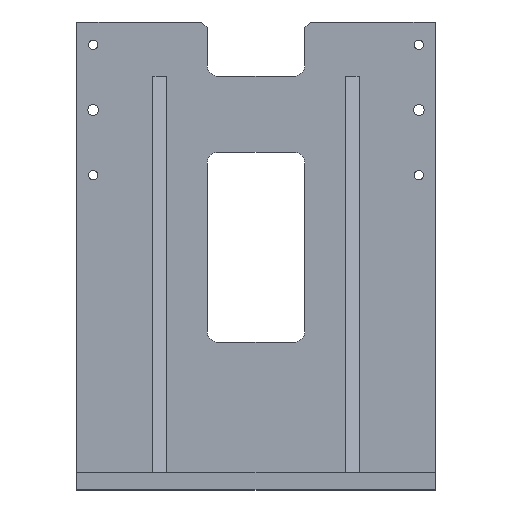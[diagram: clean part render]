
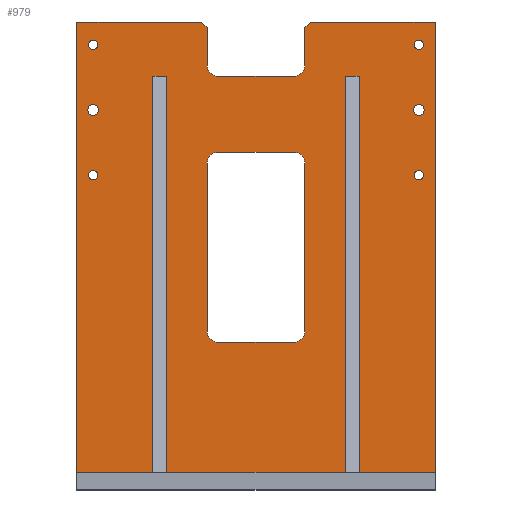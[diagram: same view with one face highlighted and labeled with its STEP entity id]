
A CAD part, top view. The second image highlights one B-rep face of the part: STEP entity #979.
In plain terms, the highlighted planar face has unit normal (0, 0, 1).
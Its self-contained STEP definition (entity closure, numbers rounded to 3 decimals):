
#19=FACE_BOUND($,#149,.T.);
#20=FACE_BOUND($,#150,.T.);
#21=FACE_BOUND($,#151,.T.);
#22=FACE_BOUND($,#152,.T.);
#23=FACE_BOUND($,#153,.T.);
#24=FACE_BOUND($,#154,.T.);
#25=FACE_BOUND($,#155,.T.);
#26=FACE_BOUND($,#156,.T.);
#65=PLANE($,#1047);
#149=EDGE_LOOP($,(#739,#740,#741,#742,#743,#744,#745,#746));
#150=EDGE_LOOP($,(#747,#748,#749,#750,#751,#752,#753,#754,#755,#756,#757,
#758,#759,#760,#761,#762,#763,#764,#765,#766));
#151=EDGE_LOOP($,(#767));
#152=EDGE_LOOP($,(#768));
#153=EDGE_LOOP($,(#769));
#154=EDGE_LOOP($,(#770));
#155=EDGE_LOOP($,(#771));
#156=EDGE_LOOP($,(#772));
#215=LINE($,#1371,#305);
#218=LINE($,#1382,#308);
#223=LINE($,#1395,#313);
#225=LINE($,#1403,#315);
#244=LINE($,#1458,#334);
#248=LINE($,#1464,#338);
#250=LINE($,#1469,#340);
#252=LINE($,#1473,#342);
#256=LINE($,#1484,#346);
#257=LINE($,#1487,#347);
#258=LINE($,#1489,#348);
#259=LINE($,#1491,#349);
#260=LINE($,#1493,#350);
#261=LINE($,#1495,#351);
#262=LINE($,#1497,#352);
#263=LINE($,#1499,#353);
#264=LINE($,#1501,#354);
#265=LINE($,#1503,#355);
#266=LINE($,#1505,#356);
#267=LINE($,#1507,#357);
#268=LINE($,#1509,#358);
#269=LINE($,#1510,#359);
#305=VECTOR($,#1110,155.);
#308=VECTOR($,#1121,70.);
#313=VECTOR($,#1134,70.);
#315=VECTOR($,#1144,155.);
#334=VECTOR($,#1187,7.071);
#338=VECTOR($,#1193,35.);
#340=VECTOR($,#1197,7.071);
#342=VECTOR($,#1201,35.);
#346=VECTOR($,#1215,70.);
#347=VECTOR($,#1218,115.);
#348=VECTOR($,#1219,415.);
#349=VECTOR($,#1220,70.);
#350=VECTOR($,#1221,365.);
#351=VECTOR($,#1222,12.7);
#352=VECTOR($,#1223,365.);
#353=VECTOR($,#1224,164.6);
#354=VECTOR($,#1225,365.);
#355=VECTOR($,#1226,12.7);
#356=VECTOR($,#1227,365.);
#357=VECTOR($,#1228,70.);
#358=VECTOR($,#1229,415.);
#359=VECTOR($,#1230,115.);
#390=CIRCLE($,#1013,10.);
#392=CIRCLE($,#1017,10.);
#394=CIRCLE($,#1021,10.);
#396=CIRCLE($,#1025,10.);
#405=CIRCLE($,#1043,10.);
#406=CIRCLE($,#1045,10.);
#407=CIRCLE($,#1048,5.);
#408=CIRCLE($,#1049,5.);
#409=CIRCLE($,#1050,4.188);
#410=CIRCLE($,#1051,4.188);
#411=CIRCLE($,#1052,4.188);
#412=CIRCLE($,#1053,4.188);
#427=VERTEX_POINT($,#1357);
#428=VERTEX_POINT($,#1359);
#432=VERTEX_POINT($,#1369);
#435=VERTEX_POINT($,#1376);
#436=VERTEX_POINT($,#1378);
#438=VERTEX_POINT($,#1387);
#440=VERTEX_POINT($,#1393);
#442=VERTEX_POINT($,#1399);
#465=VERTEX_POINT($,#1456);
#466=VERTEX_POINT($,#1457);
#467=VERTEX_POINT($,#1462);
#468=VERTEX_POINT($,#1466);
#469=VERTEX_POINT($,#1468);
#470=VERTEX_POINT($,#1472);
#471=VERTEX_POINT($,#1476);
#472=VERTEX_POINT($,#1480);
#473=VERTEX_POINT($,#1486);
#474=VERTEX_POINT($,#1488);
#475=VERTEX_POINT($,#1490);
#476=VERTEX_POINT($,#1492);
#477=VERTEX_POINT($,#1494);
#478=VERTEX_POINT($,#1496);
#479=VERTEX_POINT($,#1498);
#480=VERTEX_POINT($,#1500);
#481=VERTEX_POINT($,#1502);
#482=VERTEX_POINT($,#1504);
#483=VERTEX_POINT($,#1506);
#484=VERTEX_POINT($,#1508);
#485=VERTEX_POINT($,#1511);
#486=VERTEX_POINT($,#1513);
#487=VERTEX_POINT($,#1515);
#488=VERTEX_POINT($,#1517);
#489=VERTEX_POINT($,#1519);
#490=VERTEX_POINT($,#1521);
#519=EDGE_CURVE($,#427,#428,#390,.T.);
#525=EDGE_CURVE($,#427,#432,#215,.T.);
#528=EDGE_CURVE($,#435,#436,#392,.T.);
#530=EDGE_CURVE($,#435,#428,#218,.T.);
#534=EDGE_CURVE($,#438,#432,#394,.T.);
#537=EDGE_CURVE($,#438,#440,#223,.T.);
#540=EDGE_CURVE($,#442,#440,#396,.T.);
#541=EDGE_CURVE($,#442,#436,#225,.T.);
#568=EDGE_CURVE($,#465,#466,#244,.T.);
#572=EDGE_CURVE($,#465,#467,#248,.T.);
#574=EDGE_CURVE($,#468,#469,#250,.T.);
#576=EDGE_CURVE($,#470,#469,#252,.T.);
#578=EDGE_CURVE($,#471,#467,#405,.T.);
#580=EDGE_CURVE($,#470,#472,#406,.T.);
#582=EDGE_CURVE($,#471,#472,#256,.T.);
#583=EDGE_CURVE($,#468,#473,#257,.T.);
#584=EDGE_CURVE($,#473,#474,#258,.T.);
#585=EDGE_CURVE($,#474,#475,#259,.T.);
#586=EDGE_CURVE($,#475,#476,#260,.T.);
#587=EDGE_CURVE($,#476,#477,#261,.T.);
#588=EDGE_CURVE($,#477,#478,#262,.T.);
#589=EDGE_CURVE($,#478,#479,#263,.T.);
#590=EDGE_CURVE($,#479,#480,#264,.T.);
#591=EDGE_CURVE($,#480,#481,#265,.T.);
#592=EDGE_CURVE($,#481,#482,#266,.T.);
#593=EDGE_CURVE($,#482,#483,#267,.T.);
#594=EDGE_CURVE($,#483,#484,#268,.T.);
#595=EDGE_CURVE($,#484,#466,#269,.T.);
#596=EDGE_CURVE($,#485,#485,#407,.T.);
#597=EDGE_CURVE($,#486,#486,#408,.T.);
#598=EDGE_CURVE($,#487,#487,#409,.T.);
#599=EDGE_CURVE($,#488,#488,#410,.T.);
#600=EDGE_CURVE($,#489,#489,#411,.T.);
#601=EDGE_CURVE($,#490,#490,#412,.T.);
#739=ORIENTED_EDGE($,*,*,#525,.T.);
#740=ORIENTED_EDGE($,*,*,#534,.F.);
#741=ORIENTED_EDGE($,*,*,#537,.T.);
#742=ORIENTED_EDGE($,*,*,#540,.F.);
#743=ORIENTED_EDGE($,*,*,#541,.T.);
#744=ORIENTED_EDGE($,*,*,#528,.F.);
#745=ORIENTED_EDGE($,*,*,#530,.T.);
#746=ORIENTED_EDGE($,*,*,#519,.F.);
#747=ORIENTED_EDGE($,*,*,#568,.F.);
#748=ORIENTED_EDGE($,*,*,#572,.T.);
#749=ORIENTED_EDGE($,*,*,#578,.F.);
#750=ORIENTED_EDGE($,*,*,#582,.T.);
#751=ORIENTED_EDGE($,*,*,#580,.F.);
#752=ORIENTED_EDGE($,*,*,#576,.T.);
#753=ORIENTED_EDGE($,*,*,#574,.F.);
#754=ORIENTED_EDGE($,*,*,#583,.T.);
#755=ORIENTED_EDGE($,*,*,#584,.T.);
#756=ORIENTED_EDGE($,*,*,#585,.T.);
#757=ORIENTED_EDGE($,*,*,#586,.T.);
#758=ORIENTED_EDGE($,*,*,#587,.T.);
#759=ORIENTED_EDGE($,*,*,#588,.T.);
#760=ORIENTED_EDGE($,*,*,#589,.T.);
#761=ORIENTED_EDGE($,*,*,#590,.T.);
#762=ORIENTED_EDGE($,*,*,#591,.T.);
#763=ORIENTED_EDGE($,*,*,#592,.T.);
#764=ORIENTED_EDGE($,*,*,#593,.T.);
#765=ORIENTED_EDGE($,*,*,#594,.T.);
#766=ORIENTED_EDGE($,*,*,#595,.T.);
#767=ORIENTED_EDGE($,*,*,#596,.T.);
#768=ORIENTED_EDGE($,*,*,#597,.T.);
#769=ORIENTED_EDGE($,*,*,#598,.T.);
#770=ORIENTED_EDGE($,*,*,#599,.T.);
#771=ORIENTED_EDGE($,*,*,#600,.T.);
#772=ORIENTED_EDGE($,*,*,#601,.T.);
#979=ADVANCED_FACE($,(#19,#20,#21,#22,#23,#24,#25,#26),#65,.T.);
#1013=AXIS2_PLACEMENT_3D($,#1360,#1101,#1102);
#1017=AXIS2_PLACEMENT_3D($,#1379,#1116,#1117);
#1021=AXIS2_PLACEMENT_3D($,#1389,#1128,#1129);
#1025=AXIS2_PLACEMENT_3D($,#1401,#1140,#1141);
#1043=AXIS2_PLACEMENT_3D($,#1477,#1205,#1206);
#1045=AXIS2_PLACEMENT_3D($,#1481,#1210,#1211);
#1047=AXIS2_PLACEMENT_3D($,#1485,#1216,#1217);
#1048=AXIS2_PLACEMENT_3D($,#1512,#1231,#1232);
#1049=AXIS2_PLACEMENT_3D($,#1514,#1233,#1234);
#1050=AXIS2_PLACEMENT_3D($,#1516,#1235,#1236);
#1051=AXIS2_PLACEMENT_3D($,#1518,#1237,#1238);
#1052=AXIS2_PLACEMENT_3D($,#1520,#1239,#1240);
#1053=AXIS2_PLACEMENT_3D($,#1522,#1241,#1242);
#1101=DIRECTION('center_axis',(0.,0.,1.));
#1102=DIRECTION('ref_axis',(-0.707,-0.707,0.));
#1110=DIRECTION($,(0.,1.,0.));
#1116=DIRECTION('center_axis',(0.,0.,1.));
#1117=DIRECTION('ref_axis',(0.707,-0.707,0.));
#1121=DIRECTION($,(-1.,0.,0.));
#1128=DIRECTION('center_axis',(0.,0.,1.));
#1129=DIRECTION('ref_axis',(-0.707,0.707,0.));
#1134=DIRECTION($,(1.,0.,0.));
#1140=DIRECTION('center_axis',(0.,0.,1.));
#1141=DIRECTION('ref_axis',(0.707,0.707,0.));
#1144=DIRECTION($,(0.,-1.,0.));
#1187=DIRECTION($,(0.707,0.707,0.));
#1193=DIRECTION($,(0.,-1.,0.));
#1197=DIRECTION($,(0.707,-0.707,0.));
#1201=DIRECTION($,(0.,1.,0.));
#1205=DIRECTION('center_axis',(0.,0.,1.));
#1206=DIRECTION('ref_axis',(0.707,-0.707,0.));
#1210=DIRECTION('center_axis',(0.,0.,1.));
#1211=DIRECTION('ref_axis',(-0.707,-0.707,0.));
#1215=DIRECTION($,(-1.,0.,0.));
#1216=DIRECTION('center_axis',(0.,0.,1.));
#1217=DIRECTION('ref_axis',(1.,0.,0.));
#1218=DIRECTION($,(-1.,0.,0.));
#1219=DIRECTION($,(0.,-1.,0.));
#1220=DIRECTION($,(1.,0.,0.));
#1221=DIRECTION($,(0.,1.,0.));
#1222=DIRECTION($,(1.,0.,0.));
#1223=DIRECTION($,(0.,-1.,0.));
#1224=DIRECTION($,(1.,0.,0.));
#1225=DIRECTION($,(0.,1.,0.));
#1226=DIRECTION($,(1.,0.,0.));
#1227=DIRECTION($,(0.,-1.,0.));
#1228=DIRECTION($,(1.,0.,0.));
#1229=DIRECTION($,(0.,1.,0.));
#1230=DIRECTION($,(-1.,0.,0.));
#1231=DIRECTION('center_axis',(0.,0.,-1.));
#1232=DIRECTION('ref_axis',(-1.,0.,0.));
#1233=DIRECTION('center_axis',(0.,0.,-1.));
#1234=DIRECTION('ref_axis',(-1.,0.,0.));
#1235=DIRECTION('center_axis',(0.,0.,-1.));
#1236=DIRECTION('ref_axis',(-1.,0.,0.));
#1237=DIRECTION('center_axis',(0.,0.,-1.));
#1238=DIRECTION('ref_axis',(-1.,0.,0.));
#1239=DIRECTION('center_axis',(0.,0.,-1.));
#1240=DIRECTION('ref_axis',(-1.,0.,0.));
#1241=DIRECTION('center_axis',(0.,0.,-1.));
#1242=DIRECTION('ref_axis',(-1.,0.,0.));
#1357=CARTESIAN_POINT('',(-45.,-77.5,19.05));
#1359=CARTESIAN_POINT('',(-35.,-87.5,19.05));
#1360=CARTESIAN_POINT('Origin',(-35.,-77.5,19.05));
#1369=CARTESIAN_POINT('',(-45.,77.5,19.05));
#1371=CARTESIAN_POINT($,(-45.,43.75,19.05));
#1376=CARTESIAN_POINT('',(35.,-87.5,19.05));
#1378=CARTESIAN_POINT('',(45.,-77.5,19.05));
#1379=CARTESIAN_POINT('Origin',(35.,-77.5,19.05));
#1382=CARTESIAN_POINT($,(-22.5,-87.5,19.05));
#1387=CARTESIAN_POINT('',(-35.,87.5,19.05));
#1389=CARTESIAN_POINT('Origin',(-35.,77.5,19.05));
#1393=CARTESIAN_POINT('',(35.,87.5,19.05));
#1395=CARTESIAN_POINT($,(22.5,87.5,19.05));
#1399=CARTESIAN_POINT('',(45.,77.5,19.05));
#1401=CARTESIAN_POINT('Origin',(35.,77.5,19.05));
#1403=CARTESIAN_POINT($,(45.,-43.75,19.05));
#1456=CARTESIAN_POINT('',(45.,202.5,19.05));
#1457=CARTESIAN_POINT('',(50.,207.5,19.05));
#1458=CARTESIAN_POINT($,(-15.625,141.875,19.05));
#1462=CARTESIAN_POINT('',(45.,167.5,19.05));
#1464=CARTESIAN_POINT($,(45.,103.75,19.05));
#1466=CARTESIAN_POINT('',(-50.,207.5,19.05));
#1468=CARTESIAN_POINT('',(-45.,202.5,19.05));
#1469=CARTESIAN_POINT($,(15.625,141.875,19.05));
#1472=CARTESIAN_POINT('',(-45.,167.5,19.05));
#1473=CARTESIAN_POINT($,(-45.,78.75,19.05));
#1476=CARTESIAN_POINT('',(35.,157.5,19.05));
#1477=CARTESIAN_POINT('Origin',(35.,167.5,19.05));
#1480=CARTESIAN_POINT('',(-35.,157.5,19.05));
#1481=CARTESIAN_POINT('Origin',(-35.,167.5,19.05));
#1484=CARTESIAN_POINT($,(22.5,157.5,19.05));
#1485=CARTESIAN_POINT('Origin',(0.,0.,
19.05));
#1486=CARTESIAN_POINT('',(-165.,207.5,19.05));
#1487=CARTESIAN_POINT($,(-165.,207.5,19.05));
#1488=CARTESIAN_POINT('',(-165.,-207.5,19.05));
#1489=CARTESIAN_POINT($,(-165.,-207.5,19.05));
#1490=CARTESIAN_POINT('',(-95.,-207.5,19.05));
#1491=CARTESIAN_POINT($,(165.,-207.5,19.05));
#1492=CARTESIAN_POINT('',(-95.,157.5,19.05));
#1493=CARTESIAN_POINT($,(-95.,-25.692,19.05));
#1494=CARTESIAN_POINT('',(-82.3,157.5,19.05));
#1495=CARTESIAN_POINT($,(-47.5,157.5,19.05));
#1496=CARTESIAN_POINT('',(-82.3,-207.5,19.05));
#1497=CARTESIAN_POINT($,(-82.3,-25.692,19.05));
#1498=CARTESIAN_POINT('',(82.3,-207.5,19.05));
#1499=CARTESIAN_POINT($,(165.,-207.5,19.05));
#1500=CARTESIAN_POINT('',(82.3,157.5,19.05));
#1501=CARTESIAN_POINT($,(82.3,-25.692,19.05));
#1502=CARTESIAN_POINT('',(95.,157.5,19.05));
#1503=CARTESIAN_POINT($,(47.5,157.5,19.05));
#1504=CARTESIAN_POINT('',(95.,-207.5,19.05));
#1505=CARTESIAN_POINT($,(95.,-25.692,19.05));
#1506=CARTESIAN_POINT('',(165.,-207.5,19.05));
#1507=CARTESIAN_POINT($,(165.,-207.5,19.05));
#1508=CARTESIAN_POINT('',(165.,207.5,19.05));
#1509=CARTESIAN_POINT($,(165.,207.5,19.05));
#1510=CARTESIAN_POINT($,(-165.,207.5,19.05));
#1511=CARTESIAN_POINT('',(-145.,126.5,19.05));
#1512=CARTESIAN_POINT('Origin',(-150.,126.5,19.05));
#1513=CARTESIAN_POINT('',(155.,126.5,19.05));
#1514=CARTESIAN_POINT('Origin',(150.,126.5,19.05));
#1515=CARTESIAN_POINT('',(-145.812,66.5,19.05));
#1516=CARTESIAN_POINT('Origin',(-150.,66.5,19.05));
#1517=CARTESIAN_POINT('',(154.188,186.5,19.05));
#1518=CARTESIAN_POINT('Origin',(150.,186.5,19.05));
#1519=CARTESIAN_POINT('',(154.188,66.5,19.05));
#1520=CARTESIAN_POINT('Origin',(150.,66.5,19.05));
#1521=CARTESIAN_POINT('',(-145.812,186.5,19.05));
#1522=CARTESIAN_POINT('Origin',(-150.,186.5,19.05));
